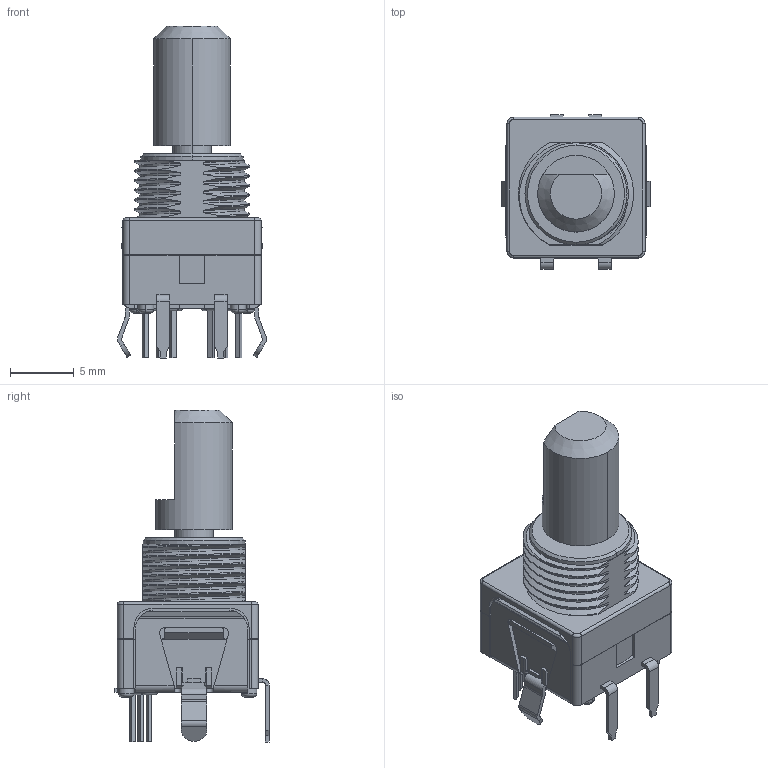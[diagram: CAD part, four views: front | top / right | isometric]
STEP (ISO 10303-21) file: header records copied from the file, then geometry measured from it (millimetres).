
FILE_DESCRIPTION (( 'STEP AP214' ), '1' );
FILE_NAME ('EM11B16140AE.STEP', '2017-04-06T04:55:36', ( 'user' ), ( 'Hewlett-Packard Company' ), 'SwSTEP 2.0', 'SolidWorks 2014', '' );
FILE_SCHEMA (( 'AUTOMOTIVE_DESIGN' ));
Length unit declared in the file: millimetre
Products named in the file (1): EM11B16140AE
Bounding box: 11.64 x 12.08 x 25.95 mm (x, y, z)
Volume: 1324.4 mm3; surface area: 1106.7 mm2
Topology: 1 solids, 3 shells, 450 faces, 1205 edges, 771 vertices
Faces by surface type: plane 267, cylinder 127, bspline 27, torus 18, cone 11
Entity records: 24934 total; most frequent: CARTESIAN_POINT 9061, ORIENTED_EDGE 2410, DIRECTION 2154, EDGE_CURVE 1205, VECTOR 822, LINE 822, VERTEX_POINT 771, AXIS2_PLACEMENT_3D 666
